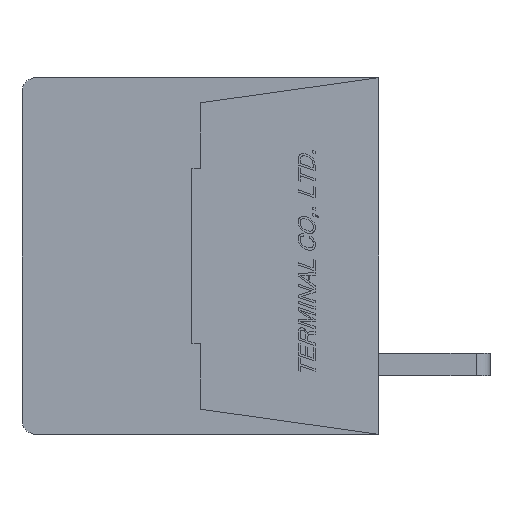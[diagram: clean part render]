
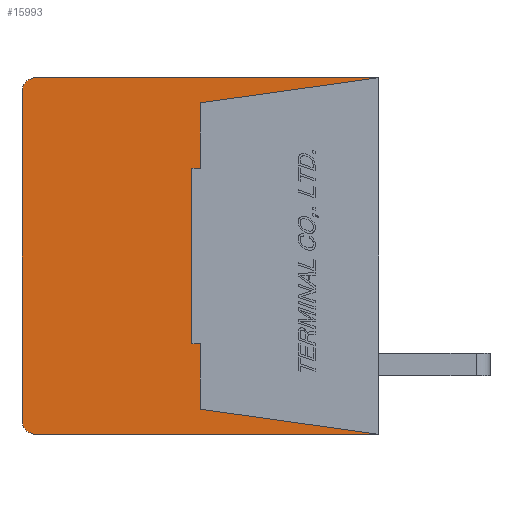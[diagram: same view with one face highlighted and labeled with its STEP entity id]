
A CAD part, left-side view. The second image highlights one B-rep face of the part: STEP entity #15993.
In plain terms, the highlighted planar face has unit normal (-1, 0, 0).
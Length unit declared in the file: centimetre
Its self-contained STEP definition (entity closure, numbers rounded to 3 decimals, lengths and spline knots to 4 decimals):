
#190=CIRCLE('',#27220,0.05);
#191=CIRCLE('',#27221,0.05);
#1190=VERTEX_POINT('',#21405);
#1191=VERTEX_POINT('',#21407);
#1192=VERTEX_POINT('',#21411);
#1193=VERTEX_POINT('',#21415);
#1194=VERTEX_POINT('',#21419);
#1195=VERTEX_POINT('',#21423);
#1196=VERTEX_POINT('',#21427);
#1197=VERTEX_POINT('',#21431);
#1246=VERTEX_POINT('',#21714);
#1247=VERTEX_POINT('',#21716);
#1248=VERTEX_POINT('',#21718);
#1249=VERTEX_POINT('',#21720);
#2890=VECTOR('',#17874,1.);
#2893=VECTOR('',#17878,1.);
#2895=VECTOR('',#17881,1.);
#2897=VECTOR('',#17884,1.);
#2899=VECTOR('',#17887,1.);
#2901=VECTOR('',#17890,1.);
#2903=VECTOR('',#17893,1.);
#2946=VECTOR('',#17946,1.);
#2947=VECTOR('',#17949,1.);
#2948=VECTOR('',#17952,1.);
#4800=LINE('',#21406,#2890);
#4803=LINE('',#21412,#2893);
#4805=LINE('',#21416,#2895);
#4807=LINE('',#21420,#2897);
#4809=LINE('',#21424,#2899);
#4811=LINE('',#21428,#2901);
#4813=LINE('',#21432,#2903);
#4856=LINE('',#21713,#2946);
#4857=LINE('',#21717,#2947);
#4858=LINE('',#21721,#2948);
#6784=EDGE_CURVE('',#1191,#1190,#4800,.T.);
#6787=EDGE_CURVE('',#1190,#1192,#4803,.T.);
#6789=EDGE_CURVE('',#1192,#1193,#4805,.T.);
#6791=EDGE_CURVE('',#1193,#1194,#4807,.T.);
#6793=EDGE_CURVE('',#1194,#1195,#4809,.T.);
#6795=EDGE_CURVE('',#1195,#1196,#4811,.T.);
#6797=EDGE_CURVE('',#1196,#1197,#4813,.T.);
#6870=EDGE_CURVE('',#1197,#1246,#4856,.T.);
#6871=EDGE_CURVE('',#1247,#1246,#190,.T.);
#6872=EDGE_CURVE('',#1247,#1248,#4857,.T.);
#6873=EDGE_CURVE('',#1249,#1248,#191,.T.);
#6874=EDGE_CURVE('',#1249,#1191,#4858,.T.);
#9824=ORIENTED_EDGE('',*,*,#6784,.T.);
#9825=ORIENTED_EDGE('',*,*,#6787,.T.);
#9826=ORIENTED_EDGE('',*,*,#6789,.T.);
#9827=ORIENTED_EDGE('',*,*,#6791,.T.);
#9828=ORIENTED_EDGE('',*,*,#6793,.T.);
#9829=ORIENTED_EDGE('',*,*,#6795,.T.);
#9830=ORIENTED_EDGE('',*,*,#6797,.T.);
#9831=ORIENTED_EDGE('',*,*,#6870,.T.);
#9832=ORIENTED_EDGE('',*,*,#6871,.F.);
#9833=ORIENTED_EDGE('',*,*,#6872,.T.);
#9834=ORIENTED_EDGE('',*,*,#6873,.F.);
#9835=ORIENTED_EDGE('',*,*,#6874,.T.);
#13925=EDGE_LOOP('',(#9824,#9825,#9826,#9827,#9828,#9829,#9830,#9831,#9832,
#9833,#9834,#9835));
#14969=FACE_BOUND('',#13925,.T.);
#15993=ADVANCED_FACE('',(#14969),#16873,.F.);
#16873=PLANE('',#27219);
#17874=DIRECTION('',(0.,0.99,0.139));
#17878=DIRECTION('',(0.,0.,1.));
#17881=DIRECTION('',(0.,1.,0.));
#17884=DIRECTION('',(0.,0.,1.));
#17887=DIRECTION('',(0.,-1.,0.));
#17890=DIRECTION('',(0.,0.,1.));
#17893=DIRECTION('',(0.,-0.99,0.139));
#17945=DIRECTION('',(1.,0.,0.));
#17946=DIRECTION('',(0.,1.,0.));
#17947=DIRECTION('',(1.,0.,0.));
#17948=DIRECTION('',(0.,0.,-0.05));
#17949=DIRECTION('',(0.,0.,-1.));
#17950=DIRECTION('',(1.,0.,0.));
#17951=DIRECTION('',(0.,0.,-0.05));
#17952=DIRECTION('',(0.,-1.,0.));
#21405=CARTESIAN_POINT('',(-0.889,0.64,-0.55));
#21406=CARTESIAN_POINT('',(-0.889,0.5152,-0.5675));
#21407=CARTESIAN_POINT('',(-0.889,0.,-0.64));
#21411=CARTESIAN_POINT('',(-0.889,0.64,-0.315));
#21412=CARTESIAN_POINT('',(-0.889,0.64,-0.2163));
#21415=CARTESIAN_POINT('',(-0.889,0.67,-0.315));
#21416=CARTESIAN_POINT('',(-0.889,0.6447,-0.315));
#21419=CARTESIAN_POINT('',(-0.889,0.67,0.315));
#21420=CARTESIAN_POINT('',(-0.889,0.67,0.));
#21423=CARTESIAN_POINT('',(-0.889,0.64,0.315));
#21424=CARTESIAN_POINT('',(-0.889,0.6447,0.315));
#21427=CARTESIAN_POINT('',(-0.889,0.64,0.55));
#21428=CARTESIAN_POINT('',(-0.889,0.64,0.2162));
#21431=CARTESIAN_POINT('',(-0.889,0.,0.64));
#21432=CARTESIAN_POINT('',(-0.889,0.5152,0.5675));
#21712=CARTESIAN_POINT('',(-0.889,0.6345,0.));
#21713=CARTESIAN_POINT('',(-0.889,0.,0.64));
#21714=CARTESIAN_POINT('',(-0.889,1.23,0.64));
#21715=CARTESIAN_POINT('',(-0.889,1.23,0.59));
#21716=CARTESIAN_POINT('',(-0.889,1.28,0.59));
#21717=CARTESIAN_POINT('',(-0.889,1.28,0.59));
#21718=CARTESIAN_POINT('',(-0.889,1.28,-0.59));
#21719=CARTESIAN_POINT('',(-0.889,1.23,-0.59));
#21720=CARTESIAN_POINT('',(-0.889,1.23,-0.64));
#21721=CARTESIAN_POINT('',(-0.889,1.23,-0.64));
#27219=AXIS2_PLACEMENT_3D('',#21712,#17945,$);
#27220=AXIS2_PLACEMENT_3D('',#21715,#17947,#17948);
#27221=AXIS2_PLACEMENT_3D('',#21719,#17950,#17951);
